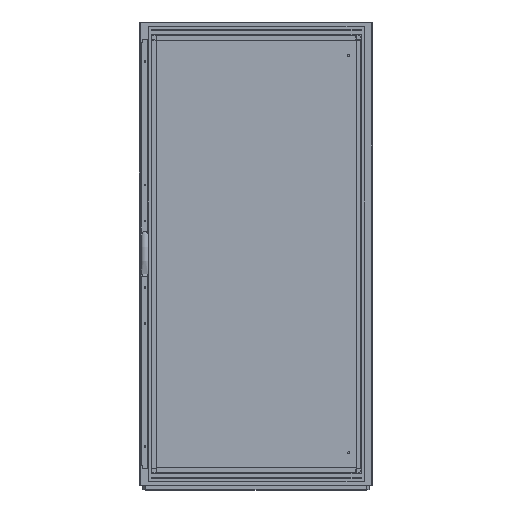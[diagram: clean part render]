
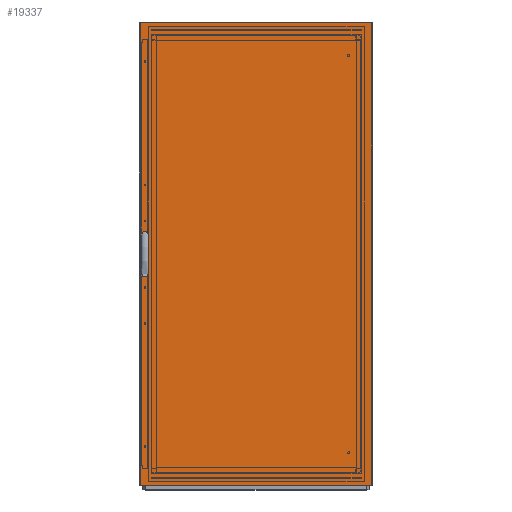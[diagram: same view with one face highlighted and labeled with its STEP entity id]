
A CAD part, top view. The second image highlights one B-rep face of the part: STEP entity #19337.
In plain terms, the highlighted planar face has unit normal (0, 0, 1) as drawn and (0, 0, -1) by its records, which use the part's own axes.
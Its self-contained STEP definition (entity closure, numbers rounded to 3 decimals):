
#593=CIRCLE('',#21557,2.6);
#594=CIRCLE('',#21558,2.6);
#3420=ORIENTED_EDGE('',*,*,#7406,.T.);
#3421=ORIENTED_EDGE('',*,*,#7407,.T.);
#3422=ORIENTED_EDGE('',*,*,#7408,.T.);
#3423=ORIENTED_EDGE('',*,*,#7409,.T.);
#3424=ORIENTED_EDGE('',*,*,#7410,.T.);
#3425=ORIENTED_EDGE('',*,*,#7411,.T.);
#3426=ORIENTED_EDGE('',*,*,#7412,.T.);
#3427=ORIENTED_EDGE('',*,*,#7413,.T.);
#3428=ORIENTED_EDGE('',*,*,#7414,.T.);
#3429=ORIENTED_EDGE('',*,*,#7415,.T.);
#3430=ORIENTED_EDGE('',*,*,#7416,.T.);
#3431=ORIENTED_EDGE('',*,*,#7417,.T.);
#3432=ORIENTED_EDGE('',*,*,#7418,.T.);
#3433=ORIENTED_EDGE('',*,*,#7419,.T.);
#3434=ORIENTED_EDGE('',*,*,#7420,.T.);
#3435=ORIENTED_EDGE('',*,*,#7421,.T.);
#3436=ORIENTED_EDGE('',*,*,#7422,.T.);
#3437=ORIENTED_EDGE('',*,*,#7423,.F.);
#3438=ORIENTED_EDGE('',*,*,#7424,.F.);
#3439=ORIENTED_EDGE('',*,*,#7425,.T.);
#3440=ORIENTED_EDGE('',*,*,#7426,.T.);
#3441=ORIENTED_EDGE('',*,*,#7427,.T.);
#7406=EDGE_CURVE('',#9655,#9656,#11682,.T.);
#7407=EDGE_CURVE('',#9656,#9657,#11683,.T.);
#7408=EDGE_CURVE('',#9657,#9658,#11684,.T.);
#7409=EDGE_CURVE('',#9658,#9659,#11685,.T.);
#7410=EDGE_CURVE('',#9659,#9660,#11686,.T.);
#7411=EDGE_CURVE('',#9660,#9661,#11687,.T.);
#7412=EDGE_CURVE('',#9661,#9662,#11688,.T.);
#7413=EDGE_CURVE('',#9662,#9663,#11689,.T.);
#7414=EDGE_CURVE('',#9663,#9664,#11690,.T.);
#7415=EDGE_CURVE('',#9664,#9665,#11691,.T.);
#7416=EDGE_CURVE('',#9665,#9666,#11692,.T.);
#7417=EDGE_CURVE('',#9666,#9667,#11693,.T.);
#7418=EDGE_CURVE('',#9667,#9668,#11694,.T.);
#7419=EDGE_CURVE('',#9668,#9669,#11695,.T.);
#7420=EDGE_CURVE('',#9669,#9670,#11696,.T.);
#7421=EDGE_CURVE('',#9670,#9655,#11697,.T.);
#7422=EDGE_CURVE('',#9671,#9672,#11698,.T.);
#7423=EDGE_CURVE('',#9673,#9672,#11699,.T.);
#7424=EDGE_CURVE('',#9674,#9673,#11700,.T.);
#7425=EDGE_CURVE('',#9674,#9671,#11701,.T.);
#7426=EDGE_CURVE('',#9675,#9675,#593,.T.);
#7427=EDGE_CURVE('',#9676,#9676,#594,.T.);
#9655=VERTEX_POINT('',#30371);
#9656=VERTEX_POINT('',#30372);
#9657=VERTEX_POINT('',#30374);
#9658=VERTEX_POINT('',#30376);
#9659=VERTEX_POINT('',#30378);
#9660=VERTEX_POINT('',#30380);
#9661=VERTEX_POINT('',#30382);
#9662=VERTEX_POINT('',#30384);
#9663=VERTEX_POINT('',#30386);
#9664=VERTEX_POINT('',#30388);
#9665=VERTEX_POINT('',#30390);
#9666=VERTEX_POINT('',#30392);
#9667=VERTEX_POINT('',#30394);
#9668=VERTEX_POINT('',#30396);
#9669=VERTEX_POINT('',#30398);
#9670=VERTEX_POINT('',#30400);
#9671=VERTEX_POINT('',#30403);
#9672=VERTEX_POINT('',#30404);
#9673=VERTEX_POINT('',#30406);
#9674=VERTEX_POINT('',#30408);
#9675=VERTEX_POINT('',#30411);
#9676=VERTEX_POINT('',#30413);
#11682=LINE('',#30370,#13974);
#11683=LINE('',#30373,#13975);
#11684=LINE('',#30375,#13976);
#11685=LINE('',#30377,#13977);
#11686=LINE('',#30379,#13978);
#11687=LINE('',#30381,#13979);
#11688=LINE('',#30383,#13980);
#11689=LINE('',#30385,#13981);
#11690=LINE('',#30387,#13982);
#11691=LINE('',#30389,#13983);
#11692=LINE('',#30391,#13984);
#11693=LINE('',#30393,#13985);
#11694=LINE('',#30395,#13986);
#11695=LINE('',#30397,#13987);
#11696=LINE('',#30399,#13988);
#11697=LINE('',#30401,#13989);
#11698=LINE('',#30402,#13990);
#11699=LINE('',#30405,#13991);
#11700=LINE('',#30407,#13992);
#11701=LINE('',#30409,#13993);
#13974=VECTOR('',#24975,1000.);
#13975=VECTOR('',#24976,1000.);
#13976=VECTOR('',#24977,1000.);
#13977=VECTOR('',#24978,1000.);
#13978=VECTOR('',#24979,1000.);
#13979=VECTOR('',#24980,1000.);
#13980=VECTOR('',#24981,1000.);
#13981=VECTOR('',#24982,1000.);
#13982=VECTOR('',#24983,1000.);
#13983=VECTOR('',#24984,1000.);
#13984=VECTOR('',#24985,1000.);
#13985=VECTOR('',#24986,1000.);
#13986=VECTOR('',#24987,1000.);
#13987=VECTOR('',#24988,1000.);
#13988=VECTOR('',#24989,1000.);
#13989=VECTOR('',#24990,1000.);
#13990=VECTOR('',#24991,1000.);
#13991=VECTOR('',#24992,1000.);
#13992=VECTOR('',#24993,1000.);
#13993=VECTOR('',#24994,1000.);
#15899=EDGE_LOOP('',(#3420,#3421,#3422,#3423,#3424,#3425,#3426,#3427,#3428,
#3429,#3430,#3431,#3432,#3433,#3434,#3435));
#15900=EDGE_LOOP('',(#3436,#3437,#3438,#3439));
#15901=EDGE_LOOP('',(#3440));
#15902=EDGE_LOOP('',(#3441));
#17269=FACE_BOUND('',#15899,.T.);
#17270=FACE_BOUND('',#15900,.T.);
#17271=FACE_BOUND('',#15901,.T.);
#17272=FACE_BOUND('',#15902,.T.);
#18332=PLANE('',#21556);
#19337=ADVANCED_FACE('',(#17269,#17270,#17271,#17272),#18332,.F.);
#21556=AXIS2_PLACEMENT_3D('',#30369,#24973,#24974);
#21557=AXIS2_PLACEMENT_3D('',#30410,#24995,#24996);
#21558=AXIS2_PLACEMENT_3D('',#30412,#24997,#24998);
#24973=DIRECTION('',(0.,0.,1.));
#24974=DIRECTION('',(1.,0.,0.));
#24975=DIRECTION('',(0.,-1.,0.));
#24976=DIRECTION('',(0.342,-0.94,0.));
#24977=DIRECTION('',(1.,0.,0.));
#24978=DIRECTION('',(0.,1.,0.));
#24979=DIRECTION('',(1.,0.,0.));
#24980=DIRECTION('',(0.,-1.,0.));
#24981=DIRECTION('',(1.,0.,0.));
#24982=DIRECTION('',(0.342,0.94,0.));
#24983=DIRECTION('',(0.,1.,0.));
#24984=DIRECTION('',(-0.342,0.94,0.));
#24985=DIRECTION('',(-1.,0.,0.));
#24986=DIRECTION('',(0.,-1.,0.));
#24987=DIRECTION('',(-1.,0.,0.));
#24988=DIRECTION('',(0.,1.,0.));
#24989=DIRECTION('',(-1.,0.,0.));
#24990=DIRECTION('',(-0.342,-0.94,0.));
#24991=DIRECTION('',(-1.,0.,0.));
#24992=DIRECTION('',(0.,-1.,0.));
#24993=DIRECTION('',(-1.,0.,0.));
#24994=DIRECTION('',(0.,-1.,0.));
#24995=DIRECTION('',(0.,0.,1.));
#24996=DIRECTION('',(1.,0.,0.));
#24997=DIRECTION('',(0.,0.,1.));
#24998=DIRECTION('',(1.,0.,0.));
#30369=CARTESIAN_POINT('',(496.5,1982.,-16.8));
#30370=CARTESIAN_POINT('',(462.95,1056.256,-16.8));
#30371=CARTESIAN_POINT('',(462.95,1056.256,-16.8));
#30372=CARTESIAN_POINT('',(462.95,925.744,-16.8));
#30373=CARTESIAN_POINT('',(462.95,925.744,-16.8));
#30374=CARTESIAN_POINT('',(464.95,920.25,-16.8));
#30375=CARTESIAN_POINT('',(464.95,920.25,-16.8));
#30376=CARTESIAN_POINT('',(470.2,920.25,-16.8));
#30377=CARTESIAN_POINT('',(470.2,920.25,-16.8));
#30378=CARTESIAN_POINT('',(470.2,928.,-16.8));
#30379=CARTESIAN_POINT('',(470.2,928.,-16.8));
#30380=CARTESIAN_POINT('',(481.2,928.,-16.8));
#30381=CARTESIAN_POINT('',(481.2,928.,-16.8));
#30382=CARTESIAN_POINT('',(481.2,920.25,-16.8));
#30383=CARTESIAN_POINT('',(481.2,920.25,-16.8));
#30384=CARTESIAN_POINT('',(486.45,920.25,-16.8));
#30385=CARTESIAN_POINT('',(486.45,920.25,-16.8));
#30386=CARTESIAN_POINT('',(488.45,925.744,-16.8));
#30387=CARTESIAN_POINT('',(488.45,925.744,-16.8));
#30388=CARTESIAN_POINT('',(488.45,1056.256,-16.8));
#30389=CARTESIAN_POINT('',(488.45,1056.256,-16.8));
#30390=CARTESIAN_POINT('',(486.45,1061.75,-16.8));
#30391=CARTESIAN_POINT('',(486.45,1061.75,-16.8));
#30392=CARTESIAN_POINT('',(481.2,1061.75,-16.8));
#30393=CARTESIAN_POINT('',(481.2,1061.75,-16.8));
#30394=CARTESIAN_POINT('',(481.2,1054.,-16.8));
#30395=CARTESIAN_POINT('',(481.2,1054.,-16.8));
#30396=CARTESIAN_POINT('',(470.2,1054.,-16.8));
#30397=CARTESIAN_POINT('',(470.2,1054.,-16.8));
#30398=CARTESIAN_POINT('',(470.2,1061.75,-16.8));
#30399=CARTESIAN_POINT('',(470.2,1061.75,-16.8));
#30400=CARTESIAN_POINT('',(464.95,1061.75,-16.8));
#30401=CARTESIAN_POINT('',(464.95,1061.75,-16.8));
#30402=CARTESIAN_POINT('',(496.5,0.,-16.8));
#30403=CARTESIAN_POINT('',(496.5,0.,-16.8));
#30404=CARTESIAN_POINT('',(-496.5,0.,-16.8));
#30405=CARTESIAN_POINT('',(-496.5,1982.,-16.8));
#30406=CARTESIAN_POINT('',(-496.5,1982.,-16.8));
#30407=CARTESIAN_POINT('',(496.5,1982.,-16.8));
#30408=CARTESIAN_POINT('',(496.5,1982.,-16.8));
#30409=CARTESIAN_POINT('',(496.5,1982.,-16.8));
#30410=CARTESIAN_POINT('',(475.7,1061.,-16.8));
#30411=CARTESIAN_POINT('',(478.3,1061.,-16.8));
#30412=CARTESIAN_POINT('',(475.7,921.,-16.8));
#30413=CARTESIAN_POINT('',(478.3,921.,-16.8));
